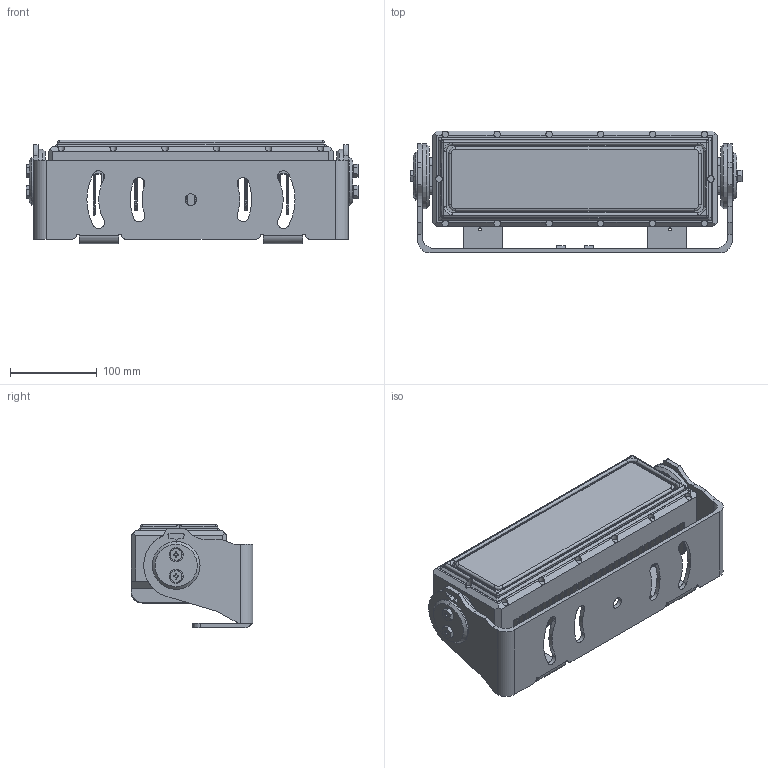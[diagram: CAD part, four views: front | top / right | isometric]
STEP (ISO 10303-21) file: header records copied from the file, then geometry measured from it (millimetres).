
FILE_DESCRIPTION (( 'STEP AP214' ), '1' );
FILE_NAME ('LED10WSA-160.STEP', '2019-03-27T20:06:00', ( '' ), ( '' ), 'SwSTEP 2.0', 'SolidWorks 2016', '' );
FILE_SCHEMA (( 'AUTOMOTIVE_DESIGN' ));
Length unit declared in the file: inch
Products named in the file (1): LED10WSA-160
Bounding box: 382.98 x 140.44 x 119.13 mm (x, y, z)
Volume: 2197305.7 mm3; surface area: 545258.7 mm2
Topology: 5 solids, 5 shells, 1231 faces, 3041 edges, 1839 vertices
Faces by surface type: cylinder 527, plane 368, torus 184, bspline 140, cone 8, sphere 4
Entity records: 50364 total; most frequent: CARTESIAN_POINT 21561, DIRECTION 6114, ORIENTED_EDGE 6074, EDGE_CURVE 3037, AXIS2_PLACEMENT_3D 2354, VERTEX_POINT 1839, LINE 1406, VECTOR 1406
